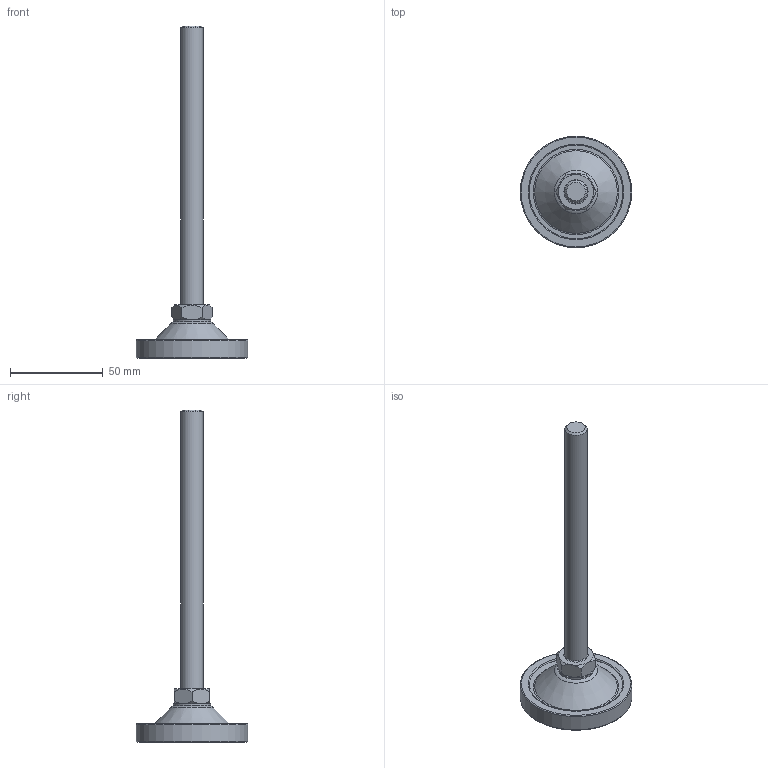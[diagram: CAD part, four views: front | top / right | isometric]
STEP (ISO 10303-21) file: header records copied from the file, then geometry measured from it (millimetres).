
FILE_DESCRIPTION(/* description */ (''),/* implementation_level */ '2;1');
FILE_NAME(/* name */ 'D:\조절자\PFR\PFR-M12-150L.stp',/* time_stamp */ '2016-03-14T15:06:37+09:00',/* author */ ('GS-DT-1-001'),/* organization */ (''),/* preprocessor_version */ 'ST-DEVELOPER v15.6',/* originating_system */ 'Autodesk Inventor LT ',/* authorisation */ '');
FILE_SCHEMA (('AUTOMOTIVE_DESIGN { 1 0 10303 214 3 1 1 }'));
Length unit declared in the file: millimetre
Products named in the file (1): PFR-M12-150L
Bounding box: 60 x 60 x 178.5 mm (x, y, z)
Volume: 43135.4 mm3; surface area: 22964.5 mm2
Topology: 5 solids, 5 shells, 69 faces, 126 edges, 77 vertices
Faces by surface type: plane 26, torus 20, cone 13, cylinder 10
Full cylindrical faces by diameter (mm): 5.153 x1, 6 x1, 6.2 x2, 12 x2, 20 x1, 54 x1, 54.2 x1, 60 x1
Entity records: 1438 total; most frequent: DIRECTION 264, CARTESIAN_POINT 242, ORIENTED_EDGE 154, AXIS2_PLACEMENT_3D 129, EDGE_LOOP 126, EDGE_CURVE 77, VERTEX_POINT 71, FACE_OUTER_BOUND 69
